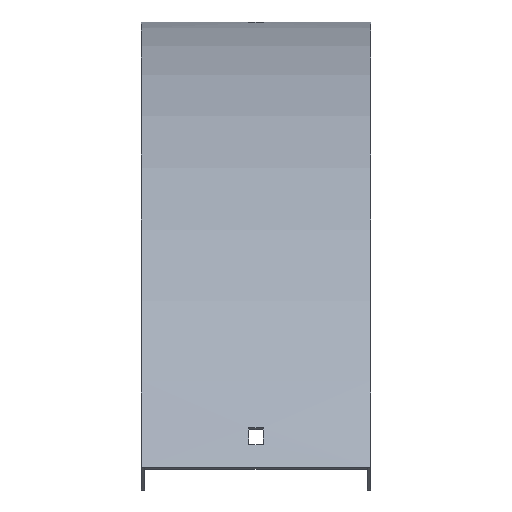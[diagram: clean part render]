
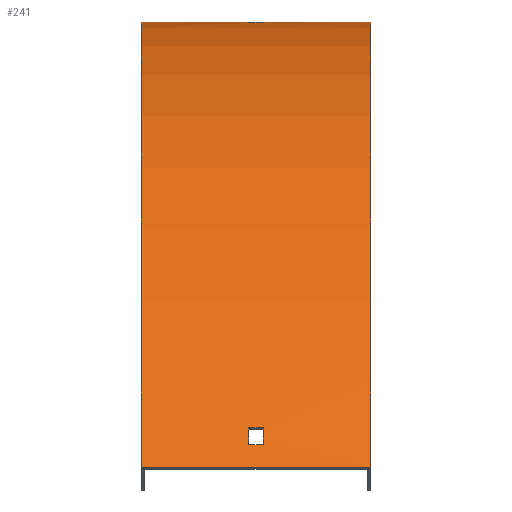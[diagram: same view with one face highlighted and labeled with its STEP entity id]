
A CAD part, top view. The second image highlights one B-rep face of the part: STEP entity #241.
In plain terms, the highlighted cylindrical face has radius 401.5 mm (diameter 803 mm), a partial arc.
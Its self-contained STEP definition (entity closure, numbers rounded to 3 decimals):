
#11 = CARTESIAN_POINT ( 'NONE',  ( 51.5, -0.55, 21. ) ) ;
#13 = DIRECTION ( 'NONE',  ( 1., 0., 0. ) ) ;
#15 = DIRECTION ( 'NONE',  ( 0., 0., -1. ) ) ;
#40 = DIRECTION ( 'NONE',  ( -1., 0., 0. ) ) ;
#45 = VERTEX_POINT ( 'NONE', #267 ) ;
#52 = EDGE_CURVE ( 'NONE', #148, #361, #526, .T. ) ;
#56 = VERTEX_POINT ( 'NONE', #381 ) ;
#57 = VERTEX_POINT ( 'NONE', #175 ) ;
#59 = VERTEX_POINT ( 'NONE', #213 ) ;
#60 = LINE ( 'NONE', #11, #511 ) ;
#68 = FACE_BOUND ( 'NONE', #196, .T. ) ;
#74 = CYLINDRICAL_SURFACE ( 'NONE', #514, 401.5 ) ;
#83 = DIRECTION ( 'NONE',  ( 1., 0., 0. ) ) ;
#89 = DIRECTION ( 'NONE',  ( 0., 0., 1. ) ) ;
#90 = DIRECTION ( 'NONE',  ( -1., 0., 0. ) ) ;
#98 = EDGE_CURVE ( 'NONE', #57, #337, #120, .T. ) ;
#101 = ORIENTED_EDGE ( 'NONE', *, *, #343, .F. ) ;
#102 = AXIS2_PLACEMENT_3D ( 'NONE', #487, #547, #89 ) ;
#110 = CARTESIAN_POINT ( 'NONE',  ( 51.5, -0.179, 12. ) ) ;
#115 = CARTESIAN_POINT ( 'NONE',  ( 3.25, -401.5, 0. ) ) ;
#120 = LINE ( 'NONE', #110, #440 ) ;
#130 = CARTESIAN_POINT ( 'NONE',  ( 3.25, -401.5, 0. ) ) ;
#133 = DIRECTION ( 'NONE',  ( 1., 0., 0. ) ) ;
#135 = EDGE_CURVE ( 'NONE', #468, #59, #502, .T. ) ;
#144 = ORIENTED_EDGE ( 'NONE', *, *, #561, .T. ) ;
#147 = ORIENTED_EDGE ( 'NONE', *, *, #98, .T. ) ;
#148 = VERTEX_POINT ( 'NONE', #312 ) ;
#160 = VECTOR ( 'NONE', #481, 1000. ) ;
#166 = DIRECTION ( 'NONE',  ( 0., 0., 1. ) ) ;
#175 = CARTESIAN_POINT ( 'NONE',  ( -3.25, -0.179, 12. ) ) ;
#179 = CARTESIAN_POINT ( 'NONE',  ( -3.25, -401.5, 0. ) ) ;
#195 = VERTEX_POINT ( 'NONE', #314 ) ;
#196 = EDGE_LOOP ( 'NONE', ( #573, #101, #519, #370 ) ) ;
#207 = FACE_OUTER_BOUND ( 'NONE', #601, .T. ) ;
#213 = CARTESIAN_POINT ( 'NONE',  ( 51.5, -200.75, 347.709 ) ) ;
#215 = LINE ( 'NONE', #452, #413 ) ;
#219 = AXIS2_PLACEMENT_3D ( 'NONE', #357, #133, #275 ) ;
#222 = EDGE_CURVE ( 'NONE', #337, #368, #428, .T. ) ;
#227 = CARTESIAN_POINT ( 'NONE',  ( 3.25, -0.179, 12. ) ) ;
#239 = AXIS2_PLACEMENT_3D ( 'NONE', #429, #351, #15 ) ;
#241 = ADVANCED_FACE ( 'NONE', ( #207, #384, #68 ), #74, .T. ) ;
#244 = CARTESIAN_POINT ( 'NONE',  ( 3.25, -0.55, 21. ) ) ;
#254 = DIRECTION ( 'NONE',  ( -1., 0., 0. ) ) ;
#257 = CARTESIAN_POINT ( 'NONE',  ( -51.5, 0., 0. ) ) ;
#267 = CARTESIAN_POINT ( 'NONE',  ( -3.25, -182.838, 336.733 ) ) ;
#270 = DIRECTION ( 'NONE',  ( 0., 0., -1. ) ) ;
#275 = DIRECTION ( 'NONE',  ( 0., 0., -1. ) ) ;
#276 = DIRECTION ( 'NONE',  ( 1., 0., 0. ) ) ;
#278 = CARTESIAN_POINT ( 'NONE',  ( -51.5, -200.75, 347.709 ) ) ;
#285 = ORIENTED_EDGE ( 'NONE', *, *, #222, .T. ) ;
#287 = EDGE_CURVE ( 'NONE', #361, #195, #476, .T. ) ;
#295 = VERTEX_POINT ( 'NONE', #278 ) ;
#311 = DIRECTION ( 'NONE',  ( 0., 1., 0. ) ) ;
#312 = CARTESIAN_POINT ( 'NONE',  ( -3.25, -190.447, 341.554 ) ) ;
#314 = CARTESIAN_POINT ( 'NONE',  ( 3.25, -182.838, 336.733 ) ) ;
#320 = CARTESIAN_POINT ( 'NONE',  ( 3.25, -190.447, 341.554 ) ) ;
#324 = CIRCLE ( 'NONE', #554, 401.5 ) ;
#332 = ORIENTED_EDGE ( 'NONE', *, *, #135, .F. ) ;
#337 = VERTEX_POINT ( 'NONE', #227 ) ;
#339 = EDGE_CURVE ( 'NONE', #45, #148, #324, .T. ) ;
#343 = EDGE_CURVE ( 'NONE', #195, #45, #215, .T. ) ;
#351 = DIRECTION ( 'NONE',  ( 1., 0., 0. ) ) ;
#357 = CARTESIAN_POINT ( 'NONE',  ( -51.5, -401.5, 0. ) ) ;
#360 = CIRCLE ( 'NONE', #102, 401.5 ) ;
#361 = VERTEX_POINT ( 'NONE', #320 ) ;
#363 = ORIENTED_EDGE ( 'NONE', *, *, #515, .T. ) ;
#368 = VERTEX_POINT ( 'NONE', #244 ) ;
#370 = ORIENTED_EDGE ( 'NONE', *, *, #52, .F. ) ;
#371 = ORIENTED_EDGE ( 'NONE', *, *, #378, .F. ) ;
#378 = EDGE_CURVE ( 'NONE', #59, #295, #483, .T. ) ;
#381 = CARTESIAN_POINT ( 'NONE',  ( -3.25, -0.55, 21. ) ) ;
#384 = FACE_BOUND ( 'NONE', #415, .T. ) ;
#392 = DIRECTION ( 'NONE',  ( -1., 0., 0. ) ) ;
#404 = CARTESIAN_POINT ( 'NONE',  ( 51.5, 0., 0. ) ) ;
#413 = VECTOR ( 'NONE', #40, 1000. ) ;
#415 = EDGE_LOOP ( 'NONE', ( #144, #470, #147, #285 ) ) ;
#421 = CARTESIAN_POINT ( 'NONE',  ( 51.5, -200.75, 347.709 ) ) ;
#428 = CIRCLE ( 'NONE', #491, 401.5 ) ;
#429 = CARTESIAN_POINT ( 'NONE',  ( 51.5, -401.5, 0. ) ) ;
#432 = AXIS2_PLACEMENT_3D ( 'NONE', #115, #90, #166 ) ;
#437 = CIRCLE ( 'NONE', #219, 401.5 ) ;
#440 = VECTOR ( 'NONE', #13, 1000. ) ;
#452 = CARTESIAN_POINT ( 'NONE',  ( 51.5, -182.838, 336.733 ) ) ;
#468 = VERTEX_POINT ( 'NONE', #596 ) ;
#470 = ORIENTED_EDGE ( 'NONE', *, *, #482, .T. ) ;
#472 = ORIENTED_EDGE ( 'NONE', *, *, #548, .T. ) ;
#476 = CIRCLE ( 'NONE', #432, 401.5 ) ;
#481 = DIRECTION ( 'NONE',  ( 1., 0., 0. ) ) ;
#482 = EDGE_CURVE ( 'NONE', #56, #57, #360, .T. ) ;
#483 = LINE ( 'NONE', #421, #530 ) ;
#487 = CARTESIAN_POINT ( 'NONE',  ( -3.25, -401.5, 0. ) ) ;
#491 = AXIS2_PLACEMENT_3D ( 'NONE', #130, #83, #270 ) ;
#502 = CIRCLE ( 'NONE', #239, 401.5 ) ;
#511 = VECTOR ( 'NONE', #528, 1000. ) ;
#514 = AXIS2_PLACEMENT_3D ( 'NONE', #585, #392, #590 ) ;
#515 = EDGE_CURVE ( 'NONE', #566, #295, #437, .T. ) ;
#519 = ORIENTED_EDGE ( 'NONE', *, *, #287, .F. ) ;
#526 = LINE ( 'NONE', #595, #160 ) ;
#528 = DIRECTION ( 'NONE',  ( -1., 0., 0. ) ) ;
#530 = VECTOR ( 'NONE', #254, 1000. ) ;
#538 = VECTOR ( 'NONE', #603, 1000. ) ;
#547 = DIRECTION ( 'NONE',  ( -1., 0., 0. ) ) ;
#548 = EDGE_CURVE ( 'NONE', #468, #566, #556, .T. ) ;
#554 = AXIS2_PLACEMENT_3D ( 'NONE', #179, #276, #311 ) ;
#556 = LINE ( 'NONE', #404, #538 ) ;
#561 = EDGE_CURVE ( 'NONE', #368, #56, #60, .T. ) ;
#566 = VERTEX_POINT ( 'NONE', #257 ) ;
#573 = ORIENTED_EDGE ( 'NONE', *, *, #339, .F. ) ;
#585 = CARTESIAN_POINT ( 'NONE',  ( 51.5, -401.5, 0. ) ) ;
#590 = DIRECTION ( 'NONE',  ( 0., 0., 1. ) ) ;
#595 = CARTESIAN_POINT ( 'NONE',  ( 51.5, -190.447, 341.554 ) ) ;
#596 = CARTESIAN_POINT ( 'NONE',  ( 51.5, 0., 0. ) ) ;
#601 = EDGE_LOOP ( 'NONE', ( #363, #371, #332, #472 ) ) ;
#603 = DIRECTION ( 'NONE',  ( -1., 0., 0. ) ) ;
